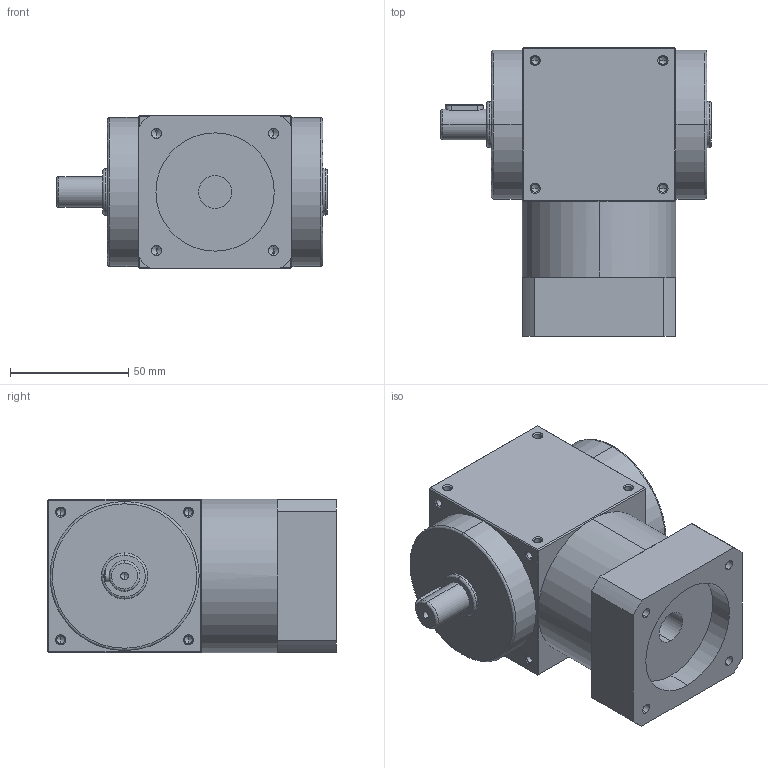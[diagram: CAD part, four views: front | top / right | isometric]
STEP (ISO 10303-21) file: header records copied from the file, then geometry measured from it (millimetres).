
FILE_DESCRIPTION (( 'STEP AP214' ), '1' );
FILE_NAME ('AT065-FL-001--14-50-70-M5.STEP', '2020-10-07T09:33:08', ( '微软用户' ), ( '微软中国' ), 'SwSTEP 2.0', 'SolidWorks 2014', '' );
FILE_SCHEMA (( 'AUTOMOTIVE_DESIGN' ));
Length unit declared in the file: millimetre
Products named in the file (2): AT065-FL-001--14-50-70-M5
Bounding box: 114.5 x 122 x 65 mm (x, y, z)
Volume: 544004.8 mm3; surface area: 50793.9 mm2
Topology: 1 solids, 2 shells, 272 faces, 670 edges, 361 vertices
Faces by surface type: cylinder 114, cone 92, plane 56, bspline 10
Entity records: 10727 total; most frequent: CARTESIAN_POINT 1829, ORIENTED_EDGE 1240, DIRECTION 1232, EDGE_CURVE 620, AXIS2_PLACEMENT_3D 472, VERTEX_POINT 361, EDGE_LOOP 305, VECTOR 288
